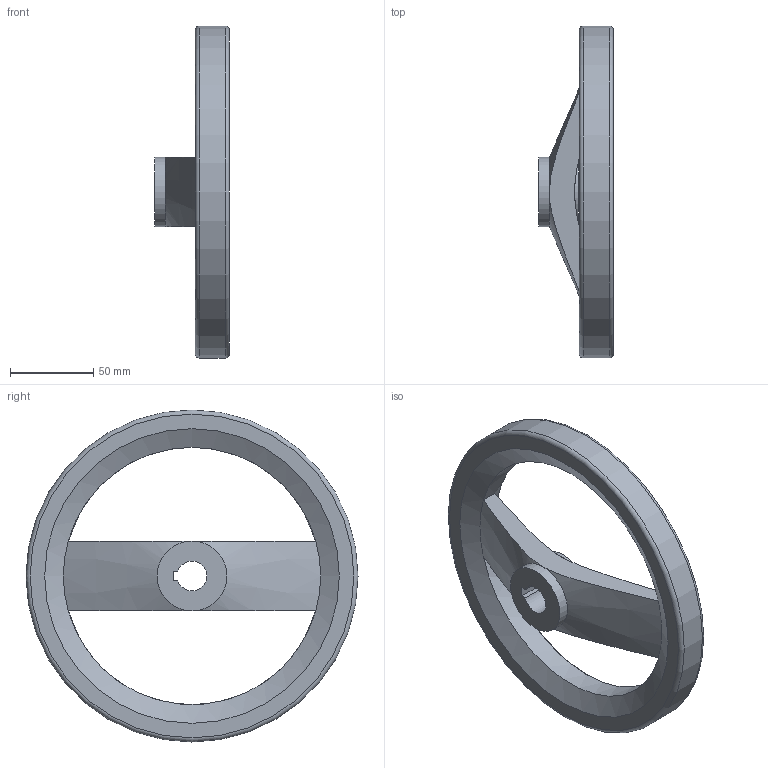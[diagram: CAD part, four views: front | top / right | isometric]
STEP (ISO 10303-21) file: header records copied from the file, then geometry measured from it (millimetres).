
FILE_DESCRIPTION( ( 'STEP AP203' ), '1' );
FILE_NAME( 'C:/Temp/Ganter_Step_05_03_2020/data/1_3/gn_324/gn_324_k/gn_324_k_a/Handwheel, matt black GN 324-200-K18-A.stp', '2020-03-05T10:33:00', ( 'License CC BY-ND 4.0' ), ( 'CADENAS' ), ' ', 'PARTsolutions', ' ' );
FILE_SCHEMA( ( 'CONFIG_CONTROL_DESIGN' ) );
Length unit declared in the file: millimetre
Products named in the file (1): _Handwheel, matt black GN 324-200-K18-A
Bounding box: 45 x 200 x 200 mm (x, y, z)
Volume: 327782.6 mm3; surface area: 62876.6 mm2
Topology: 1 solids, 1 shells, 22 faces, 52 edges, 30 vertices
Faces by surface type: plane 9, cone 6, cylinder 5, torus 2
Full cylindrical faces by diameter (mm): 42 x2, 155 x1, 200 x1
Entity records: 772 total; most frequent: CARTESIAN_POINT 251, DIRECTION 102, ORIENTED_EDGE 86, AXIS2_PLACEMENT_3D 44, EDGE_CURVE 43, EDGE_LOOP 34, VERTEX_POINT 29, FACE_OUTER_BOUND 28
